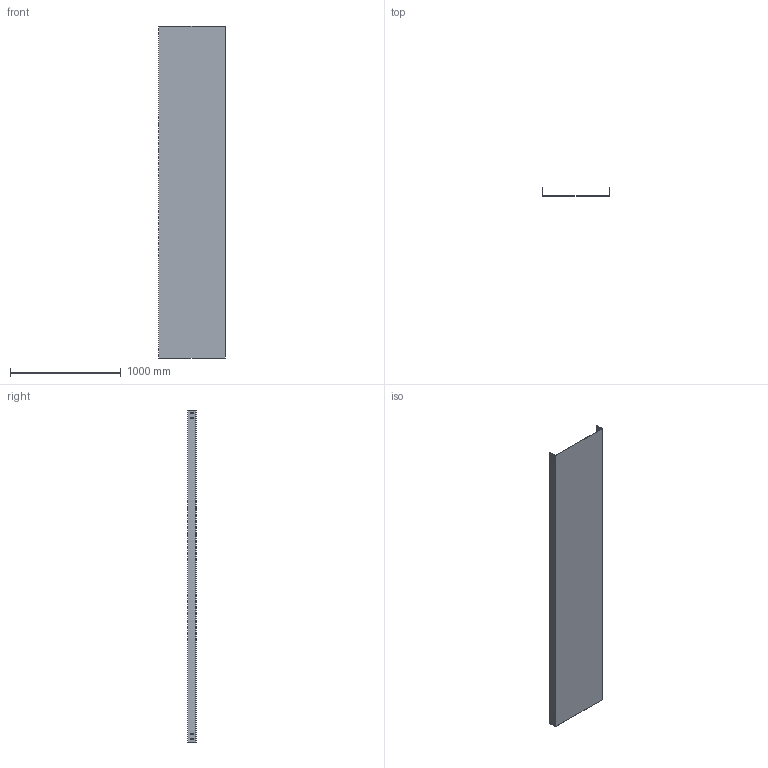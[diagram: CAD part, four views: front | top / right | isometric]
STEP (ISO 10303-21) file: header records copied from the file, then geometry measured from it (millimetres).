
FILE_DESCRIPTION (( 'STEP AP214' ), '1' );
FILE_NAME ('CC_607.step', '2025-07-16T09:04:59', ( '' ), ( '' ), 'SwSTEP 2.0', 'SolidWorks 2023', '' );
FILE_SCHEMA (( 'AUTOMOTIVE_DESIGN' ));
Length unit declared in the file: millimetre
Products named in the file (1): CC_607
Bounding box: 600 x 75 x 3000 mm (x, y, z)
Volume: 3359820 mm3; surface area: 4491817 mm2
Topology: 1 solids, 1 shells, 74 faces, 216 edges, 144 vertices
Faces by surface type: plane 74
Entity records: 2487 total; most frequent: CARTESIAN_POINT 435, ORIENTED_EDGE 432, DIRECTION 366, EDGE_CURVE 216, LINE 216, VECTOR 216, VERTEX_POINT 144, EDGE_LOOP 106
